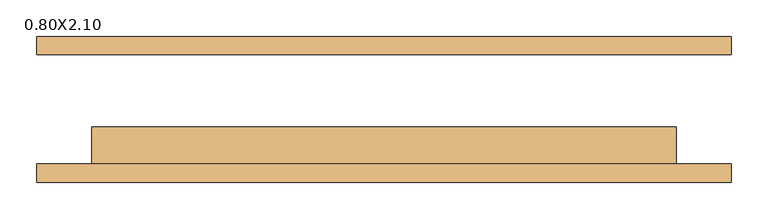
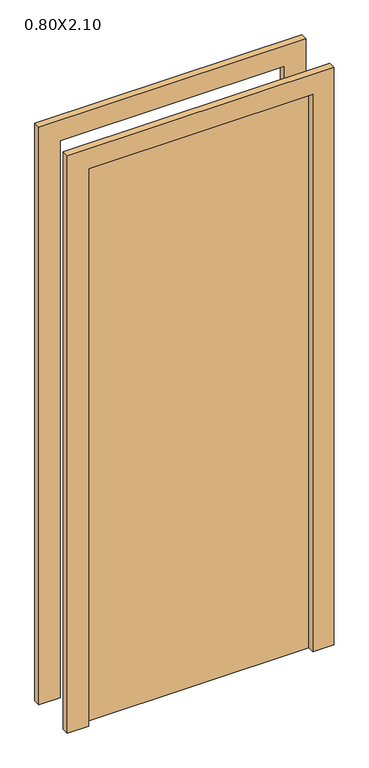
"""IFC4 building model written with IfcOpenShell, lengths in millimetres: door geometry, M_Folha única : 0.80X2.10."""

from ifc_helpers import new_model, si_unit, frame, origin, origin_with_axes, place, context, project, spatial, polyline, outline, extrude, source, transform, mapped, element, save


def door_0_80x2_10_8bd717ab(model_context):
    return source(origin(), model_context, "Body", "SweptSolid", [
        extrude(outline(polyline([(2176.0, -476.0), (0.0, -476.0), (0.0, -400.0), (2100.0, -400.0), (2100.0, 400.0), (0.0, 400.0), (0.0, 476.0), (2176.0, 476.0), (2176.0, -476.0)])), frame((0.0, -100.0, 0.0), z_axis=(0.0, 1.0, 0.0), x_axis=(0.0, 0.0, 1.0)), (0.0, 0.0, 1.0), 25.0),
        extrude(outline(polyline([(2176.0, 476.0), (2176.0, -476.0), (0.0, -476.0), (0.0, -400.0), (2100.0, -400.0), (2100.0, 400.0), (0.0, 400.0), (0.0, 476.0), (2176.0, 476.0)])), frame((0.0, 75.0, 0.0), z_axis=(0.0, 1.0, 0.0), x_axis=(0.0, 0.0, 1.0)), (0.0, 0.0, 1.0), 25.0),
        extrude(outline(polyline([(400.0, -24.0), (400.0, -75.0), (-400.0, -75.0), (-400.0, -24.0), (400.0, -24.0)])), origin_with_axes(), (0.0, 0.0, 1.0), 2100.0),
    ])


if __name__ == "__main__":
    model = new_model("IFC4")
    model_context = context("Model", 3, world=origin())
    ifc_project = project(units=[si_unit("LENGTHUNIT", "METRE", prefix="MILLI")], contexts=[model_context])
    site = spatial("IfcSite", under=ifc_project)
    building = spatial("IfcBuilding", under=site)
    placement = place(None, origin())
    door_0_80x2_10_shape = door_0_80x2_10_8bd717ab(model_context)
    element("IfcDoor", 1, ObjectType="M_Folha única : 0.80X2.10", at=placement, inside=building, context=model_context, shape_type="MappedRepresentation", body=[
        mapped(door_0_80x2_10_shape, transform((0.0, 0.0, 0.0), x_axis=(1.0, 0.0, 0.0), y_axis=(0.0, 1.0, 0.0), z_axis=(0.0, 0.0, 1.0))),
    ])
    save(model, "model.ifc")
